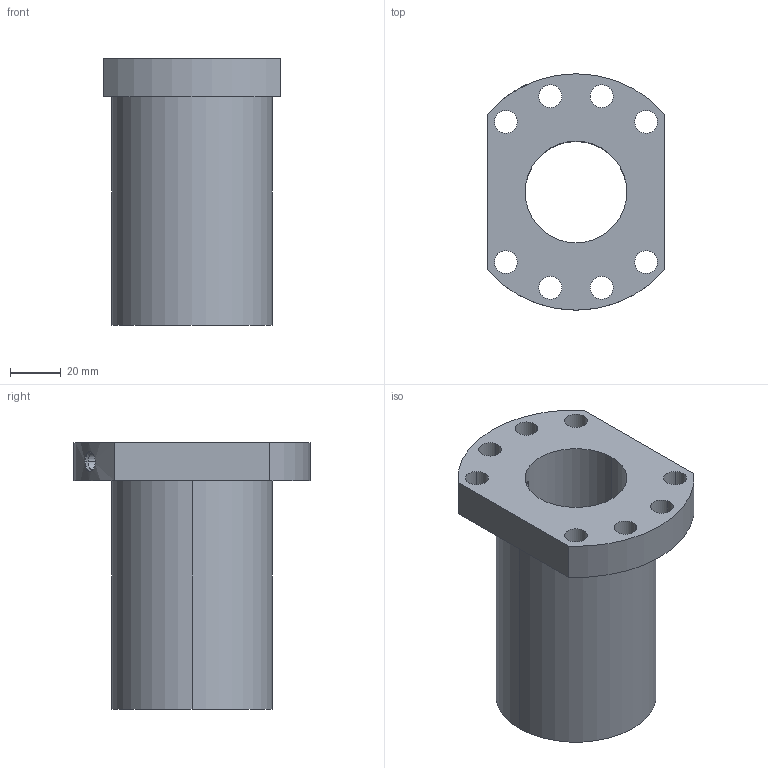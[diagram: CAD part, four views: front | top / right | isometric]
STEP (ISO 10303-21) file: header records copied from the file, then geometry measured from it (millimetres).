
FILE_DESCRIPTION(('STEP AP214'),'1');
FILE_NAME('cgr4040sfsd6_35105-.stp','2025-04-29T08:35:21',('TraceParts'),('TraceParts S.A.'),'Spatial InterOp 3D',' ',' ');
FILE_SCHEMA(('AUTOMOTIVE_DESIGN { 1 0 10303 214 1 1 1 1 }'));
Length unit declared in the file: millimetre
Products named in the file (1): cgr4040sfsd6_35105-
Bounding box: 70 x 93 x 105 mm (x, y, z)
Volume: 227811.9 mm3; surface area: 47141.8 mm2
Topology: 1 solids, 1 shells, 42 faces, 104 edges, 66 vertices
Faces by surface type: cylinder 30, cone 6, plane 6
Entity records: 1782 total; most frequent: CARTESIAN_POINT 345, DIRECTION 244, ORIENTED_EDGE 208, EDGE_CURVE 104, AXIS2_PLACEMENT_3D 101, VERTEX_POINT 66, EDGE_LOOP 64, CIRCLE 58
